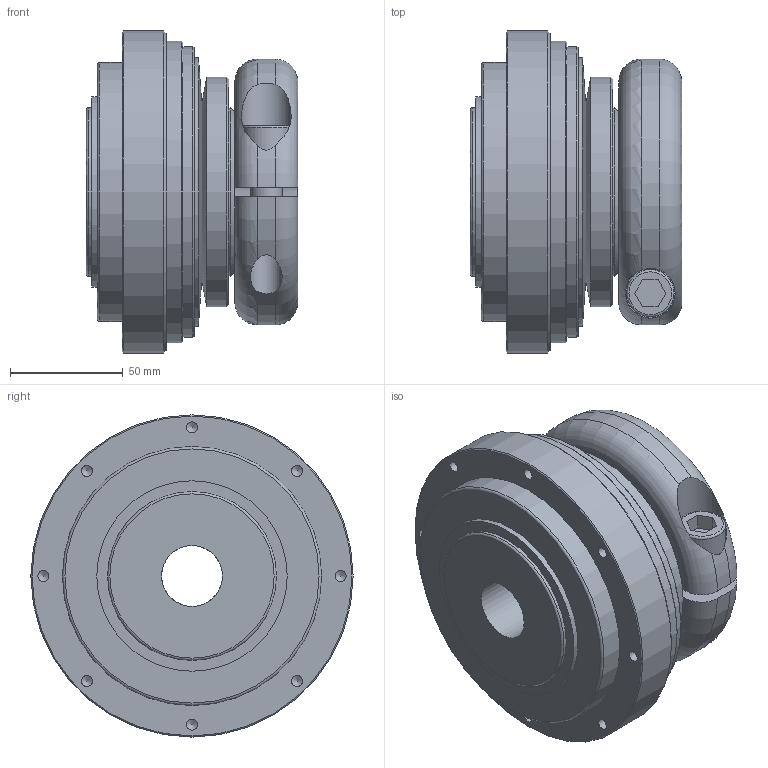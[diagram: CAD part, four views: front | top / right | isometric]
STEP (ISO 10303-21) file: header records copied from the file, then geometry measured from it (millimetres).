
FILE_DESCRIPTION(/* description */ ('Unknown'),/* implementation_level */ '2;1');
FILE_NAME(/* name */ 'SKVA-K 400',/* time_stamp */ '2025-02-12T11:36:48+01:00',/* author */ ('Unknown'),/* organization */ ('Unknown'),/* preprocessor_version */ 'ST-DEVELOPER v18.102',/* originating_system */ 'Solid Edge',/* authorisation */ 'Unknown');
FILE_SCHEMA (('AUTOMOTIVE_DESIGN {1 0 10303 214 3 1 1}'));
Length unit declared in the file: millimetre
Products named in the file (1): SKVA-K 400
Bounding box: 94 x 143 x 143 mm (x, y, z)
Volume: 980060.9 mm3; surface area: 97190.5 mm2
Topology: 1 solids, 2 shells, 80 faces, 185 edges, 117 vertices
Faces by surface type: cylinder 31, plane 25, cone 19, torus 5
Full cylindrical faces by diameter (mm): 4.917 x16, 14 x3, 21 x1, 22 x1, 27 x1, 74.912 x1, 75 x1, 84.5 x1, 102 x1, 115 x1, 119 x1, 129 x1, 134 x1, 143 x1
Entity records: 2504 total; most frequent: CARTESIAN_POINT 393, DIRECTION 332, ORIENTED_EDGE 224, AXIS2_PLACEMENT_3D 153, FACE_BOUND 150, EDGE_LOOP 142, EDGE_CURVE 112, VERTEX_POINT 102
